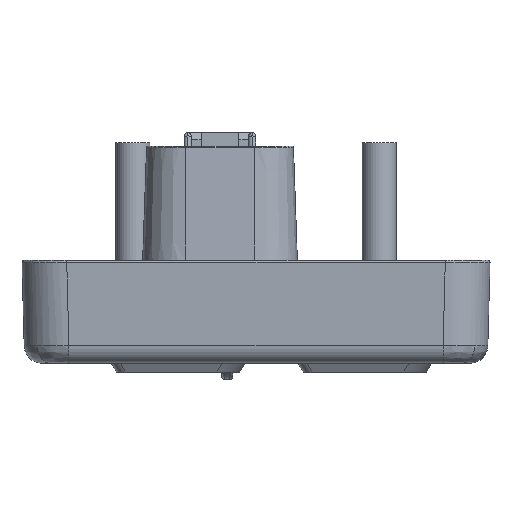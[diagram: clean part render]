
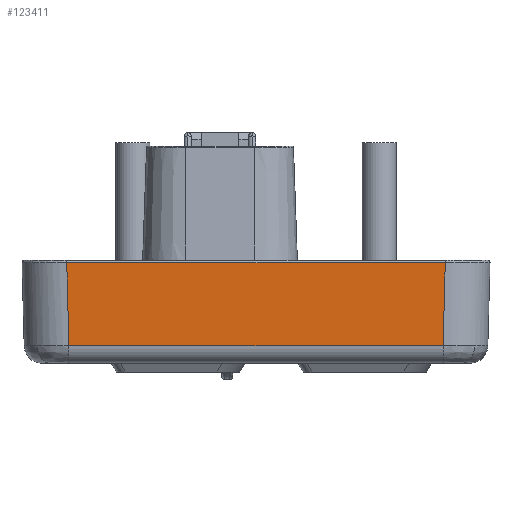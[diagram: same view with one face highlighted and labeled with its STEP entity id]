
A CAD part, left-side view. The second image highlights one B-rep face of the part: STEP entity #123411.
In plain terms, the highlighted planar face has unit normal (-1, 0, -0.026) as drawn and (1, 0, 0.026) by its records, which use the part's own axes.
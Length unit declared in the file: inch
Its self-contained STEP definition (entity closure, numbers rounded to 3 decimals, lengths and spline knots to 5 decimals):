
#32 = LINE ( 'NONE', #51951, #102516 ) ;
#502 = DIRECTION ( 'NONE',  ( 0.026, 0., -1. ) ) ;
#768 = DIRECTION ( 'NONE',  ( 0.026, -0.026, -0.999 ) ) ;
#8951 = CARTESIAN_POINT ( 'NONE',  ( 1.32461, -1.3075, 0.02965 ) ) ;
#9161 = EDGE_CURVE ( 'NONE', #109755, #28987, #21281, .T. ) ;
#11406 = EDGE_CURVE ( 'NONE', #28987, #20433, #53848, .T. ) ;
#14611 = CARTESIAN_POINT ( 'NONE',  ( 1.32461, 1.05719, 0.02965 ) ) ;
#20433 = VERTEX_POINT ( 'NONE', #14611 ) ;
#21281 = LINE ( 'NONE', #29493, #118515 ) ;
#22861 = AXIS2_PLACEMENT_3D ( 'NONE', #61295, #102951, #502 ) ;
#25440 = ORIENTED_EDGE ( 'NONE', *, *, #11406, .T. ) ;
#28987 = VERTEX_POINT ( 'NONE', #113696 ) ;
#29493 = CARTESIAN_POINT ( 'NONE',  ( 1.32517, -1.05776, 0.00806 ) ) ;
#39208 = ORIENTED_EDGE ( 'NONE', *, *, #83164, .T. ) ;
#51951 = CARTESIAN_POINT ( 'NONE',  ( 1.31247, -1.0425, 0.49322 ) ) ;
#52401 = FACE_OUTER_BOUND ( 'NONE', #75486, .T. ) ;
#53848 = LINE ( 'NONE', #8951, #87917 ) ;
#59931 = PLANE ( 'NONE',  #22861 ) ;
#61295 = CARTESIAN_POINT ( 'NONE',  ( 1.325, -1.3075, 0.0146 ) ) ;
#75486 = EDGE_LOOP ( 'NONE', ( #108392, #25440, #39208, #134646 ) ) ;
#78444 = EDGE_CURVE ( 'NONE', #103996, #109755, #32, .T. ) ;
#82448 = DIRECTION ( 'NONE',  ( -0.026, -0.026, 0.999 ) ) ;
#83164 = EDGE_CURVE ( 'NONE', #20433, #103996, #113158, .T. ) ;
#83959 = CARTESIAN_POINT ( 'NONE',  ( 1.31247, 1.04505, 0.49322 ) ) ;
#86054 = VECTOR ( 'NONE', #82448, 39.37008 ) ;
#87917 = VECTOR ( 'NONE', #103199, 39.37008 ) ;
#91981 = CARTESIAN_POINT ( 'NONE',  ( 1.32338, 1.05597, 0.07645 ) ) ;
#92242 = DIRECTION ( 'NONE',  ( 0., -1., 0. ) ) ;
#102516 = VECTOR ( 'NONE', #92242, 39.37008 ) ;
#102951 = DIRECTION ( 'NONE',  ( 1., 0., 0.026 ) ) ;
#103199 = DIRECTION ( 'NONE',  ( 0., 1., 0. ) ) ;
#103996 = VERTEX_POINT ( 'NONE', #83959 ) ;
#108392 = ORIENTED_EDGE ( 'NONE', *, *, #9161, .T. ) ;
#109755 = VERTEX_POINT ( 'NONE', #132302 ) ;
#113158 = LINE ( 'NONE', #91981, #86054 ) ;
#113696 = CARTESIAN_POINT ( 'NONE',  ( 1.3246, -1.05718, 0.02993 ) ) ;
#118515 = VECTOR ( 'NONE', #768, 39.37008 ) ;
#123411 = ADVANCED_FACE ( 'NONE', ( #52401 ), #59931, .T. ) ;
#132302 = CARTESIAN_POINT ( 'NONE',  ( 1.31247, -1.04505, 0.49322 ) ) ;
#134646 = ORIENTED_EDGE ( 'NONE', *, *, #78444, .T. ) ;
